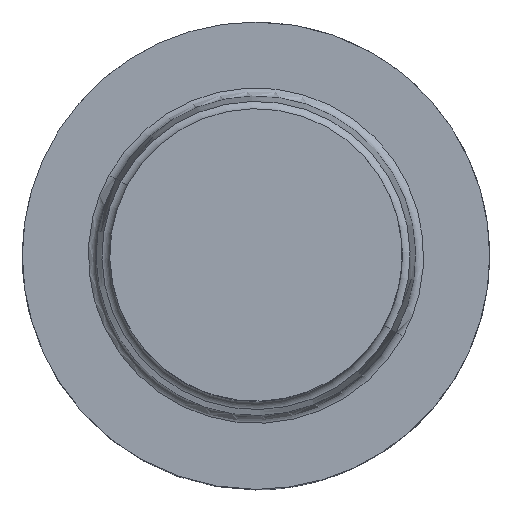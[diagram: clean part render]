
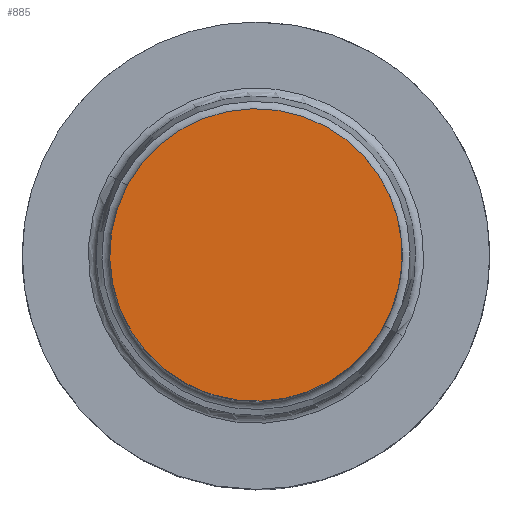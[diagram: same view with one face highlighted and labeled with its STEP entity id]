
A CAD part, top view. The second image highlights one B-rep face of the part: STEP entity #885.
In plain terms, the highlighted planar face has unit normal (0, 0, 1).
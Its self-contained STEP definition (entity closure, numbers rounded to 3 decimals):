
#832=AXIS2_PLACEMENT_3D('Circle Axis2P3D',#830,#831,$) ;
#879=AXIS2_PLACEMENT_3D('Plane Axis2P3D',#876,#877,#878) ;
#827=CARTESIAN_POINT('Vertex',(-1.203,-2.203,7.1)) ;
#830=CARTESIAN_POINT('Axis2P3D Location',(0.,0.,7.1)) ;
#834=CARTESIAN_POINT('Vertex',(1.203,2.203,7.1)) ;
#857=CARTESIAN_POINT('Control Point',(1.203,2.203,7.1)) ;
#858=CARTESIAN_POINT('Control Point',(1.895,1.825,7.1)) ;
#859=CARTESIAN_POINT('Control Point',(2.439,1.175,7.1)) ;
#860=CARTESIAN_POINT('Control Point',(2.687,0.329,7.1)) ;
#861=CARTESIAN_POINT('Control Point',(2.474,-1.352,7.1)) ;
#862=CARTESIAN_POINT('Control Point',(1.175,-2.439,7.1)) ;
#863=CARTESIAN_POINT('Control Point',(0.329,-2.687,7.1)) ;
#864=CARTESIAN_POINT('Control Point',(-0.511,-2.581,7.1)) ;
#865=CARTESIAN_POINT('Control Point',(-1.203,-2.203,7.1)) ;
#876=CARTESIAN_POINT('Axis2P3D Location',(1.04,-0.568,7.1)) ;
#831=DIRECTION('Axis2P3D Direction',(-0.,0.,-1.)) ;
#877=DIRECTION('Axis2P3D Direction',(0.,0.,-1.)) ;
#878=DIRECTION('Axis2P3D XDirection',(0.479,0.878,0.)) ;
#882=ORIENTED_EDGE('',*,*,#866,.F.) ;
#883=ORIENTED_EDGE('',*,*,#836,.F.) ;
#885=ADVANCED_FACE('NOCUT',(#884),#880,.F.) ;
#856=B_SPLINE_CURVE_WITH_KNOTS('',5,(#857,#858,#859,#860,#861,#862,#863,#864,#865),.UNSPECIFIED.,.F.,.U.,(6,3,6),(-3.943,0.,3.943),.UNSPECIFIED.) ;
#833=CIRCLE('generated circle',#832,2.51) ;
#836=EDGE_CURVE('',#828,#835,#833,.T.) ;
#866=EDGE_CURVE('',#835,#828,#856,.T.) ;
#881=EDGE_LOOP('',(#882,#883)) ;
#884=FACE_OUTER_BOUND('',#881,.T.) ;
#880=PLANE('',#879) ;
#828=VERTEX_POINT('',#827) ;
#835=VERTEX_POINT('',#834) ;
